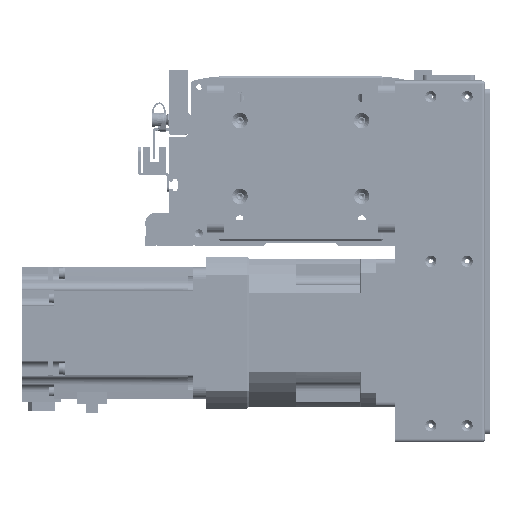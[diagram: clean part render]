
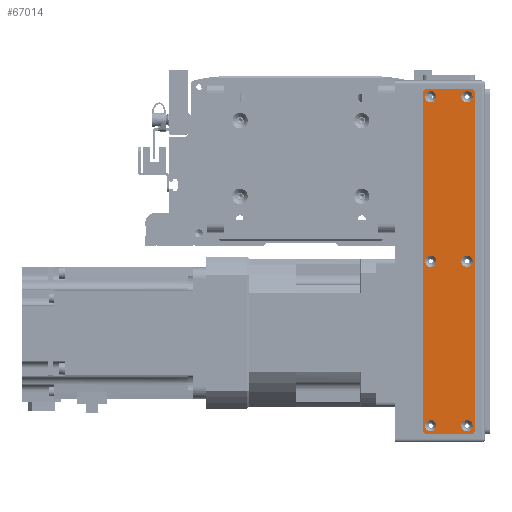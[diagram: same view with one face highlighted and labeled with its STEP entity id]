
A CAD part, front view. The second image highlights one B-rep face of the part: STEP entity #67014.
In plain terms, the highlighted planar face has unit normal (0, -1, 0).
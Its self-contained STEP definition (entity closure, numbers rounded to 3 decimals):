
#2664=FACE_BOUND('',#13917,.T.);
#2665=FACE_BOUND('',#13918,.T.);
#2666=FACE_BOUND('',#13919,.T.);
#2667=FACE_BOUND('',#13920,.T.);
#2668=FACE_BOUND('',#13921,.T.);
#2669=FACE_BOUND('',#13922,.T.);
#4774=PLANE('',#74100);
#9661=FACE_OUTER_BOUND('',#13916,.T.);
#13916=EDGE_LOOP('',(#63001,#63002,#63003,#63004,#63005,#63006,#63007,#63008));
#13917=EDGE_LOOP('',(#63009));
#13918=EDGE_LOOP('',(#63010));
#13919=EDGE_LOOP('',(#63011));
#13920=EDGE_LOOP('',(#63012));
#13921=EDGE_LOOP('',(#63013));
#13922=EDGE_LOOP('',(#63014));
#20161=LINE('',#115266,#26361);
#20162=LINE('',#115270,#26362);
#20163=LINE('',#115274,#26363);
#20164=LINE('',#115277,#26364);
#26361=VECTOR('',#93141,10.);
#26362=VECTOR('',#93144,10.);
#26363=VECTOR('',#93147,10.);
#26364=VECTOR('',#93150,10.);
#28939=CIRCLE('',#74068,3.45);
#28942=CIRCLE('',#74073,3.45);
#28945=CIRCLE('',#74078,3.45);
#28948=CIRCLE('',#74083,3.45);
#28951=CIRCLE('',#74088,3.45);
#28954=CIRCLE('',#74093,3.45);
#28957=CIRCLE('',#74098,3.);
#28959=CIRCLE('',#74101,3.);
#28960=CIRCLE('',#74102,3.);
#28961=CIRCLE('',#74103,3.);
#35102=VERTEX_POINT('',#115196);
#35105=VERTEX_POINT('',#115206);
#35108=VERTEX_POINT('',#115216);
#35111=VERTEX_POINT('',#115226);
#35114=VERTEX_POINT('',#115236);
#35117=VERTEX_POINT('',#115246);
#35120=VERTEX_POINT('',#115256);
#35121=VERTEX_POINT('',#115257);
#35124=VERTEX_POINT('',#115265);
#35125=VERTEX_POINT('',#115267);
#35126=VERTEX_POINT('',#115269);
#35127=VERTEX_POINT('',#115271);
#35128=VERTEX_POINT('',#115273);
#35129=VERTEX_POINT('',#115275);
#44399=EDGE_CURVE('',#35102,#35102,#28939,.T.);
#44404=EDGE_CURVE('',#35105,#35105,#28942,.T.);
#44409=EDGE_CURVE('',#35108,#35108,#28945,.T.);
#44414=EDGE_CURVE('',#35111,#35111,#28948,.T.);
#44419=EDGE_CURVE('',#35114,#35114,#28951,.T.);
#44424=EDGE_CURVE('',#35117,#35117,#28954,.T.);
#44429=EDGE_CURVE('',#35120,#35121,#28957,.T.);
#44433=EDGE_CURVE('',#35120,#35124,#20161,.T.);
#44434=EDGE_CURVE('',#35125,#35124,#28959,.T.);
#44435=EDGE_CURVE('',#35125,#35126,#20162,.T.);
#44436=EDGE_CURVE('',#35127,#35126,#28960,.T.);
#44437=EDGE_CURVE('',#35127,#35128,#20163,.T.);
#44438=EDGE_CURVE('',#35129,#35128,#28961,.T.);
#44439=EDGE_CURVE('',#35129,#35121,#20164,.T.);
#63001=ORIENTED_EDGE('',*,*,#44429,.F.);
#63002=ORIENTED_EDGE('',*,*,#44433,.T.);
#63003=ORIENTED_EDGE('',*,*,#44434,.F.);
#63004=ORIENTED_EDGE('',*,*,#44435,.T.);
#63005=ORIENTED_EDGE('',*,*,#44436,.F.);
#63006=ORIENTED_EDGE('',*,*,#44437,.T.);
#63007=ORIENTED_EDGE('',*,*,#44438,.F.);
#63008=ORIENTED_EDGE('',*,*,#44439,.T.);
#63009=ORIENTED_EDGE('',*,*,#44399,.T.);
#63010=ORIENTED_EDGE('',*,*,#44404,.T.);
#63011=ORIENTED_EDGE('',*,*,#44409,.T.);
#63012=ORIENTED_EDGE('',*,*,#44414,.T.);
#63013=ORIENTED_EDGE('',*,*,#44419,.T.);
#63014=ORIENTED_EDGE('',*,*,#44424,.T.);
#67014=ADVANCED_FACE('',(#9661,#2664,#2665,#2666,#2667,#2668,#2669),#4774,
 .T.);
#74068=AXIS2_PLACEMENT_3D('',#115197,#93061,#93062);
#74073=AXIS2_PLACEMENT_3D('',#115207,#93073,#93074);
#74078=AXIS2_PLACEMENT_3D('',#115217,#93085,#93086);
#74083=AXIS2_PLACEMENT_3D('',#115227,#93097,#93098);
#74088=AXIS2_PLACEMENT_3D('',#115237,#93109,#93110);
#74093=AXIS2_PLACEMENT_3D('',#115247,#93121,#93122);
#74098=AXIS2_PLACEMENT_3D('',#115258,#93133,#93134);
#74100=AXIS2_PLACEMENT_3D('',#115264,#93139,#93140);
#74101=AXIS2_PLACEMENT_3D('',#115268,#93142,#93143);
#74102=AXIS2_PLACEMENT_3D('',#115272,#93145,#93146);
#74103=AXIS2_PLACEMENT_3D('',#115276,#93148,#93149);
#93061=DIRECTION('center_axis',(0.,1.,0.));
#93062=DIRECTION('ref_axis',(1.,0.,0.));
#93073=DIRECTION('center_axis',(0.,1.,0.));
#93074=DIRECTION('ref_axis',(1.,0.,0.));
#93085=DIRECTION('center_axis',(0.,1.,0.));
#93086=DIRECTION('ref_axis',(1.,0.,0.));
#93097=DIRECTION('center_axis',(0.,1.,0.));
#93098=DIRECTION('ref_axis',(1.,0.,0.));
#93109=DIRECTION('center_axis',(0.,1.,0.));
#93110=DIRECTION('ref_axis',(1.,0.,0.));
#93121=DIRECTION('center_axis',(0.,1.,0.));
#93122=DIRECTION('ref_axis',(1.,0.,0.));
#93133=DIRECTION('center_axis',(0.,1.,0.));
#93134=DIRECTION('ref_axis',(-0.707,0.,0.707));
#93139=DIRECTION('center_axis',(0.,-1.,0.));
#93140=DIRECTION('ref_axis',(0.,0.,-1.));
#93141=DIRECTION('',(0.,0.,-1.));
#93142=DIRECTION('center_axis',(0.,1.,0.));
#93143=DIRECTION('ref_axis',(-0.707,0.,-0.707));
#93144=DIRECTION('',(1.,0.,0.));
#93145=DIRECTION('center_axis',(0.,1.,0.));
#93146=DIRECTION('ref_axis',(0.707,0.,-0.707));
#93147=DIRECTION('',(0.,0.,1.));
#93148=DIRECTION('center_axis',(0.,1.,0.));
#93149=DIRECTION('ref_axis',(0.707,0.,0.707));
#93150=DIRECTION('',(-1.,0.,0.));
#115196=CARTESIAN_POINT('',(96.55,-1.5,11.));
#115197=CARTESIAN_POINT('Origin',(100.,-1.5,11.));
#115206=CARTESIAN_POINT('',(-103.45,-1.5,-11.));
#115207=CARTESIAN_POINT('Origin',(-100.,-1.5,-11.));
#115216=CARTESIAN_POINT('',(-3.45,-1.5,11.));
#115217=CARTESIAN_POINT('Origin',(0.,-1.5,11.));
#115226=CARTESIAN_POINT('',(-3.45,-1.5,-11.));
#115227=CARTESIAN_POINT('Origin',(0.,-1.5,-11.));
#115236=CARTESIAN_POINT('',(-103.45,-1.5,11.));
#115237=CARTESIAN_POINT('Origin',(-100.,-1.5,11.));
#115246=CARTESIAN_POINT('',(96.55,-1.5,-11.));
#115247=CARTESIAN_POINT('Origin',(100.,-1.5,-11.));
#115256=CARTESIAN_POINT('',(-105.,-1.5,13.));
#115257=CARTESIAN_POINT('',(-102.,-1.5,16.));
#115258=CARTESIAN_POINT('Origin',(-102.,-1.5,13.));
#115264=CARTESIAN_POINT('Origin',(0.,-1.5,0.));
#115265=CARTESIAN_POINT('',(-105.,-1.5,-13.));
#115266=CARTESIAN_POINT('',(-105.,-1.5,16.));
#115267=CARTESIAN_POINT('',(-102.,-1.5,-16.));
#115268=CARTESIAN_POINT('Origin',(-102.,-1.5,-13.));
#115269=CARTESIAN_POINT('',(102.,-1.5,-16.));
#115270=CARTESIAN_POINT('',(-105.,-1.5,-16.));
#115271=CARTESIAN_POINT('',(105.,-1.5,-13.));
#115272=CARTESIAN_POINT('Origin',(102.,-1.5,-13.));
#115273=CARTESIAN_POINT('',(105.,-1.5,13.));
#115274=CARTESIAN_POINT('',(105.,-1.5,-16.));
#115275=CARTESIAN_POINT('',(102.,-1.5,16.));
#115276=CARTESIAN_POINT('Origin',(102.,-1.5,13.));
#115277=CARTESIAN_POINT('',(105.,-1.5,16.));
